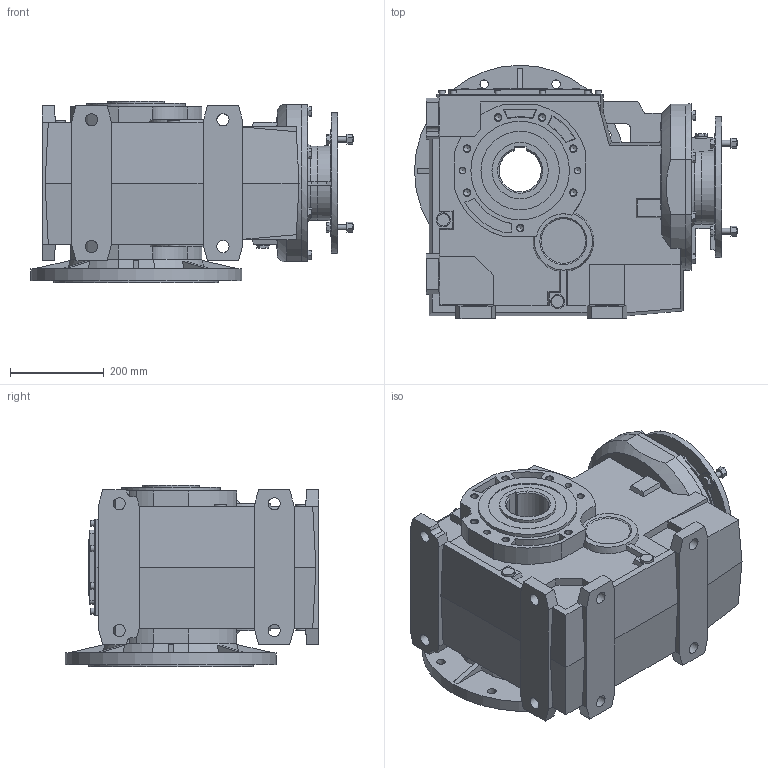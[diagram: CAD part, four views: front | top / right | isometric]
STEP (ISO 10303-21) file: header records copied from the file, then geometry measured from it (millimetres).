
FILE_DESCRIPTION(/* description */ ('STEP AP203'),/* implementation_level */ '2;1');
FILE_NAME(/* name */ 'B153UC132_B5902200000NO----_---------------',/* time_stamp */ '2025-12-16T07:43:44+01:00',/* author */ ('License CC BY-ND 4.0'),/* organization */ ('CADENAS'),/* preprocessor_version */ 'ST-DEVELOPER v20',/* originating_system */ 'PARTsolutions',/* authorisation */ ' ');
FILE_SCHEMA (('CONFIG_CONTROL_DESIGN'));
Length unit declared in the file: millimetre
Products named in the file (6): B153UC132 B5902200000NO----(---------------); 153-U-120; 153-90-C; BFU153FB; 153-B-300x38(132 B51); B153-300x38
Assembly tree (5 placements, depth 2):
  B153UC132 B5902200000NO----(---------------)
    153-U-120
    153-90-C
    BFU153FB
    153-B-300x38(132 B51)
    B153-300x38
Bounding box: 688 x 540 x 387.5 mm (x, y, z)
Volume: 68520168 mm3; surface area: 2508842 mm2
Topology: 5 solids, 5 shells, 873 faces, 2275 edges, 1502 vertices
Faces by surface type: plane 622, cylinder 175, cone 75, torus 1
Full cylindrical faces by diameter (mm): 9.1 x3, 12 x8, 13 x12, 13.835 x14, 14 x4, 18 x8, 24 x7, 26 x11, 28 x2, 30 x5, 46 x1, 55 x1, 120 x2, 167.082 x2, 210 x3, 230 x1, 300 x1, 305 x2, 330 x1, 350 x1, 450 x1
Entity records: 25962 total; most frequent: CARTESIAN_POINT 4815, DIRECTION 4252, ORIENTED_EDGE 4196, EDGE_CURVE 2098, VERTEX_POINT 1473, LINE 1472, VECTOR 1472, AXIS2_PLACEMENT_3D 1390
